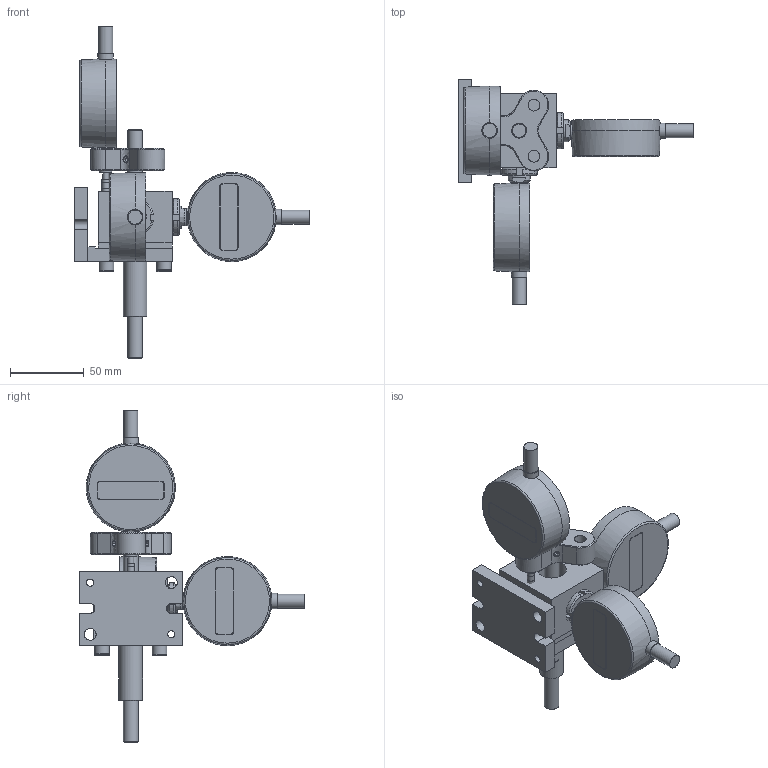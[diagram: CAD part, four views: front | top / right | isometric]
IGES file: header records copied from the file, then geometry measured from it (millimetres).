
Global section: file name: 10.00-COMP-A-SQ; native system: Autodesk Inventor 2019; preprocessor: unknown; author: AP.to; date: 20201102.170533; units: millimetre
Bounding box: 159 x 153 x 225 mm (x, y, z)
Volume: 388496.5 mm3; surface area: 103230.1 mm2
Topology: 26 solids, 26 shells, 453 faces, 1159 edges, 794 vertices
Faces by surface type: bspline 453
